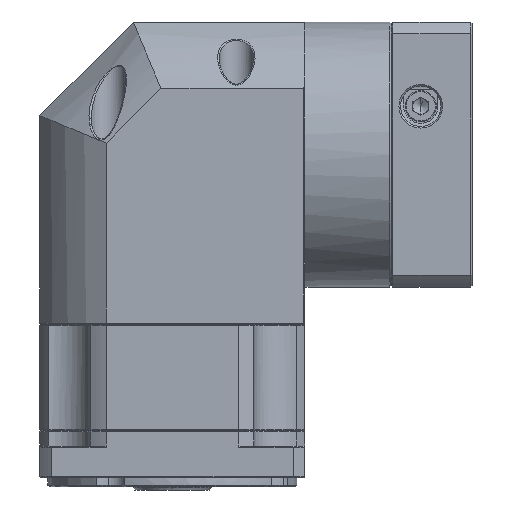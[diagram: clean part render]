
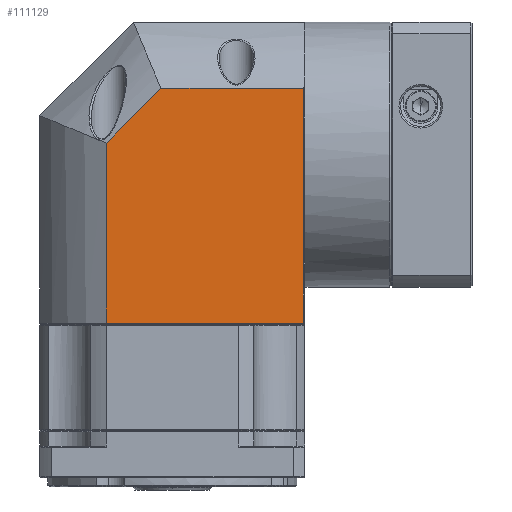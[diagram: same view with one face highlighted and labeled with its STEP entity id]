
A CAD part, front view. The second image highlights one B-rep face of the part: STEP entity #111129.
In plain terms, the highlighted planar face has unit normal (0, -1, 0).
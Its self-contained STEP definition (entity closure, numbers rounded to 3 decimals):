
#435 = LINE ( 'NONE', #11192, #100588 ) ;
#522 = ORIENTED_EDGE ( 'NONE', *, *, #103115, .T. ) ;
#1106 = CARTESIAN_POINT ( 'NONE',  ( -13.734, 115.354, 21.837 ) ) ;
#4416 = CARTESIAN_POINT ( 'NONE',  ( 3.796, 115.354, 39.368 ) ) ;
#10064 = VECTOR ( 'NONE', #23290, 1000. ) ;
#11192 = CARTESIAN_POINT ( 'NONE',  ( -13.734, 115.354, 60.654 ) ) ;
#12090 = VERTEX_POINT ( 'NONE', #30546 ) ;
#18997 = CARTESIAN_POINT ( 'NONE',  ( 49.979, 115.354, 60.654 ) ) ;
#23290 = DIRECTION ( 'NONE',  ( 1., 0., 0. ) ) ;
#24386 = DIRECTION ( 'NONE',  ( 0., 0., 1. ) ) ;
#24388 = CARTESIAN_POINT ( 'NONE',  ( 49.979, 115.354, 39.368 ) ) ;
#30546 = CARTESIAN_POINT ( 'NONE',  ( 49.479, 115.354, -35.846 ) ) ;
#32128 = DIRECTION ( 'NONE',  ( -1., 0., 0. ) ) ;
#33106 = VERTEX_POINT ( 'NONE', #56383 ) ;
#41559 = EDGE_CURVE ( 'NONE', #42991, #76406, #151881, .T. ) ;
#42991 = VERTEX_POINT ( 'NONE', #4416 ) ;
#43308 = EDGE_LOOP ( 'NONE', ( #522, #140783, #151913, #106337, #136237 ) ) ;
#46119 = LINE ( 'NONE', #69040, #76793 ) ;
#48787 = DIRECTION ( 'NONE',  ( 0., 0., -1. ) ) ;
#49317 = VERTEX_POINT ( 'NONE', #1106 ) ;
#52449 = VECTOR ( 'NONE', #48787, 1000. ) ;
#55796 = EDGE_CURVE ( 'NONE', #33106, #49317, #435, .T. ) ;
#56383 = CARTESIAN_POINT ( 'NONE',  ( -13.734, 115.354, -35.846 ) ) ;
#63781 = DIRECTION ( 'NONE',  ( 1., 0., 0. ) ) ;
#69040 = CARTESIAN_POINT ( 'NONE',  ( -13.734, 115.354, 21.837 ) ) ;
#76406 = VERTEX_POINT ( 'NONE', #110093 ) ;
#76793 = VECTOR ( 'NONE', #160623, 1000. ) ;
#87180 = LINE ( 'NONE', #166071, #52449 ) ;
#100588 = VECTOR ( 'NONE', #24386, 1000. ) ;
#103115 = EDGE_CURVE ( 'NONE', #33106, #12090, #114384, .T. ) ;
#106337 = ORIENTED_EDGE ( 'NONE', *, *, #109942, .F. ) ;
#109942 = EDGE_CURVE ( 'NONE', #49317, #42991, #46119, .T. ) ;
#110093 = CARTESIAN_POINT ( 'NONE',  ( 49.479, 115.354, 39.368 ) ) ;
#110424 = DIRECTION ( 'NONE',  ( 0., 1., 0. ) ) ;
#111129 = ADVANCED_FACE ( 'NONE', ( #115441 ), #123062, .F. ) ;
#114129 = CARTESIAN_POINT ( 'NONE',  ( 49.979, 115.354, -35.846 ) ) ;
#114384 = LINE ( 'NONE', #114129, #10064 ) ;
#115441 = FACE_OUTER_BOUND ( 'NONE', #43308, .T. ) ;
#123062 = PLANE ( 'NONE',  #163468 ) ;
#136237 = ORIENTED_EDGE ( 'NONE', *, *, #55796, .F. ) ;
#140783 = ORIENTED_EDGE ( 'NONE', *, *, #147574, .F. ) ;
#147574 = EDGE_CURVE ( 'NONE', #76406, #12090, #87180, .T. ) ;
#147694 = VECTOR ( 'NONE', #63781, 1000. ) ;
#151881 = LINE ( 'NONE', #24388, #147694 ) ;
#151913 = ORIENTED_EDGE ( 'NONE', *, *, #41559, .F. ) ;
#160623 = DIRECTION ( 'NONE',  ( 0.707, 0., 0.707 ) ) ;
#163468 = AXIS2_PLACEMENT_3D ( 'NONE', #18997, #110424, #32128 ) ;
#166071 = CARTESIAN_POINT ( 'NONE',  ( 49.479, 115.354, 60.654 ) ) ;
